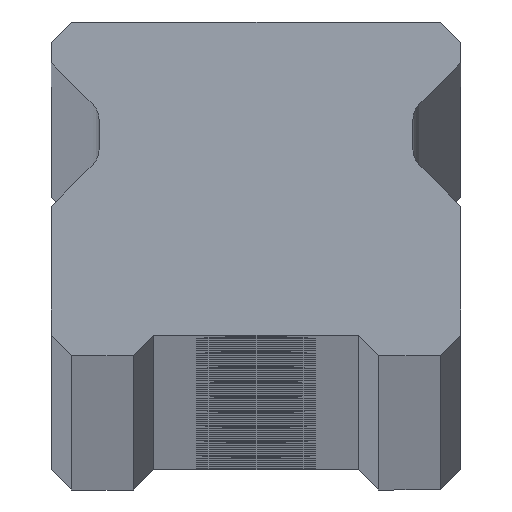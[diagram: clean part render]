
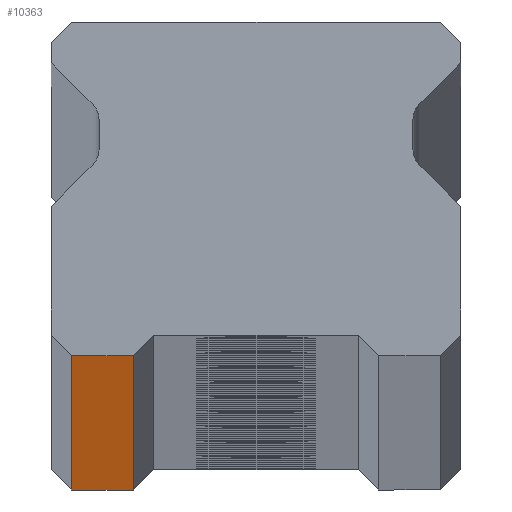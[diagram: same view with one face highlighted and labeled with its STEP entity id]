
A CAD part, top view. The second image highlights one B-rep face of the part: STEP entity #10363.
In plain terms, the highlighted planar face has unit normal (0, -1, 0).
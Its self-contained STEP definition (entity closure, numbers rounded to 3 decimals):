
#514 = DIRECTION ( 'NONE',  ( -1., 0., 0. ) ) ;
#971 = PLANE ( 'NONE',  #1935 ) ;
#1342 = VECTOR ( 'NONE', #4876, 1000. ) ;
#1370 = ORIENTED_EDGE ( 'NONE', *, *, #1733, .T. ) ;
#1733 = EDGE_CURVE ( 'NONE', #2851, #7668, #10166, .T. ) ;
#1935 = AXIS2_PLACEMENT_3D ( 'NONE', #3676, #3924, #514 ) ;
#2410 = CARTESIAN_POINT ( 'NONE',  ( -6., 0., -1880. ) ) ;
#2743 = ORIENTED_EDGE ( 'NONE', *, *, #3344, .T. ) ;
#2851 = VERTEX_POINT ( 'NONE', #4904 ) ;
#2878 = LINE ( 'NONE', #3156, #7451 ) ;
#3093 = VERTEX_POINT ( 'NONE', #4359 ) ;
#3156 = CARTESIAN_POINT ( 'NONE',  ( 10., 0., 1880. ) ) ;
#3344 = EDGE_CURVE ( 'NONE', #7668, #3462, #9115, .T. ) ;
#3462 = VERTEX_POINT ( 'NONE', #9852 ) ;
#3676 = CARTESIAN_POINT ( 'NONE',  ( 10., 0., 1880. ) ) ;
#3924 = DIRECTION ( 'NONE',  ( 0., 1., 0. ) ) ;
#3972 = CARTESIAN_POINT ( 'NONE',  ( 10., 0., -1880. ) ) ;
#4232 = FACE_OUTER_BOUND ( 'NONE', #5972, .T. ) ;
#4359 = CARTESIAN_POINT ( 'NONE',  ( -9., 0., 1880. ) ) ;
#4876 = DIRECTION ( 'NONE',  ( 0., 0., -1. ) ) ;
#4904 = CARTESIAN_POINT ( 'NONE',  ( -9., 0., -1880. ) ) ;
#5615 = DIRECTION ( 'NONE',  ( 0., 0., 1. ) ) ;
#5748 = CARTESIAN_POINT ( 'NONE',  ( -9., 0., 1880. ) ) ;
#5833 = LINE ( 'NONE', #5748, #1342 ) ;
#5972 = EDGE_LOOP ( 'NONE', ( #1370, #2743, #9723, #9794 ) ) ;
#6005 = DIRECTION ( 'NONE',  ( 1., 0., 0. ) ) ;
#7451 = VECTOR ( 'NONE', #8814, 1000. ) ;
#7668 = VERTEX_POINT ( 'NONE', #9283 ) ;
#7993 = VECTOR ( 'NONE', #6005, 1000. ) ;
#8551 = EDGE_CURVE ( 'NONE', #3093, #2851, #5833, .T. ) ;
#8726 = VECTOR ( 'NONE', #5615, 1000. ) ;
#8814 = DIRECTION ( 'NONE',  ( 1., 0., 0. ) ) ;
#9115 = LINE ( 'NONE', #2410, #8726 ) ;
#9283 = CARTESIAN_POINT ( 'NONE',  ( -6., 0., -1880. ) ) ;
#9511 = EDGE_CURVE ( 'NONE', #3093, #3462, #2878, .T. ) ;
#9723 = ORIENTED_EDGE ( 'NONE', *, *, #9511, .F. ) ;
#9794 = ORIENTED_EDGE ( 'NONE', *, *, #8551, .T. ) ;
#9852 = CARTESIAN_POINT ( 'NONE',  ( -6., 0., 1880. ) ) ;
#10166 = LINE ( 'NONE', #3972, #7993 ) ;
#10363 = ADVANCED_FACE ( 'NONE', ( #4232 ), #971, .F. ) ;
